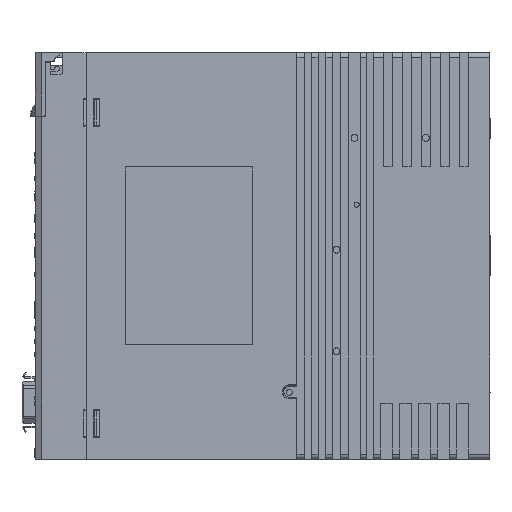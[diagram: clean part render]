
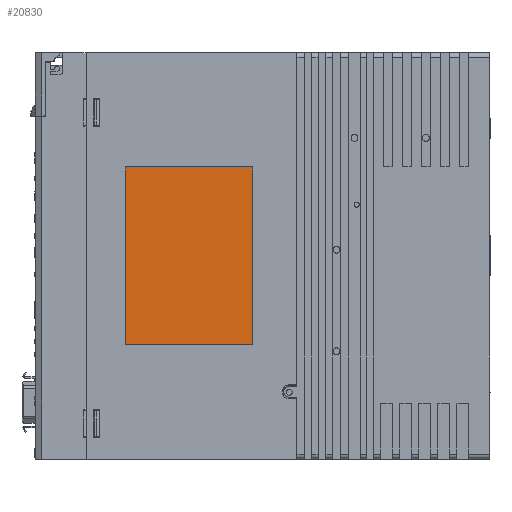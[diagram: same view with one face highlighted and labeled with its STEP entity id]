
A CAD part, top view. The second image highlights one B-rep face of the part: STEP entity #20830.
In plain terms, the highlighted planar face has unit normal (0, 0, -1).
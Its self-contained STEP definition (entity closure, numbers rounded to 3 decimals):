
#2624 = VERTEX_POINT ( 'NONE', #124301 ) ;
#9025 = VERTEX_POINT ( 'NONE', #134148 ) ;
#12452 = LINE ( 'NONE', #34376, #36807 ) ;
#14170 = ORIENTED_EDGE ( 'NONE', *, *, #66458, .F. ) ;
#17926 = LINE ( 'NONE', #129585, #124671 ) ;
#20830 = ADVANCED_FACE ( 'NONE', ( #99688 ), #123359, .F. ) ;
#22111 = DIRECTION ( 'NONE',  ( 0., 0., 1. ) ) ;
#23064 = DIRECTION ( 'NONE',  ( 0., -1., 0. ) ) ;
#25171 = DIRECTION ( 'NONE',  ( -1., 0., 0. ) ) ;
#26210 = VERTEX_POINT ( 'NONE', #132470 ) ;
#28229 = ORIENTED_EDGE ( 'NONE', *, *, #97046, .F. ) ;
#28316 = LINE ( 'NONE', #44650, #104254 ) ;
#34376 = CARTESIAN_POINT ( 'NONE',  ( -48.4, -19., 33.8 ) ) ;
#35929 = VERTEX_POINT ( 'NONE', #44705 ) ;
#36807 = VECTOR ( 'NONE', #23064, 1000. ) ;
#44650 = CARTESIAN_POINT ( 'NONE',  ( 1.6, 51., 33.8 ) ) ;
#44705 = CARTESIAN_POINT ( 'NONE',  ( 1.6, -19., 33.8 ) ) ;
#46503 = ORIENTED_EDGE ( 'NONE', *, *, #120299, .F. ) ;
#51410 = ORIENTED_EDGE ( 'NONE', *, *, #121986, .F. ) ;
#52407 = DIRECTION ( 'NONE',  ( 1., 0., 0. ) ) ;
#65226 = LINE ( 'NONE', #110054, #133266 ) ;
#66458 = EDGE_CURVE ( 'NONE', #9025, #2624, #28316, .T. ) ;
#80211 = DIRECTION ( 'NONE',  ( 1., 0., 0. ) ) ;
#84006 = CARTESIAN_POINT ( 'NONE',  ( 1.6, -19., 33.8 ) ) ;
#97046 = EDGE_CURVE ( 'NONE', #2624, #26210, #12452, .T. ) ;
#99688 = FACE_OUTER_BOUND ( 'NONE', #129460, .T. ) ;
#104254 = VECTOR ( 'NONE', #25171, 1000. ) ;
#110054 = CARTESIAN_POINT ( 'NONE',  ( -48.4, -19., 33.8 ) ) ;
#120098 = DIRECTION ( 'NONE',  ( 0., 1., 0. ) ) ;
#120299 = EDGE_CURVE ( 'NONE', #26210, #35929, #65226, .T. ) ;
#121986 = EDGE_CURVE ( 'NONE', #35929, #9025, #17926, .T. ) ;
#123359 = PLANE ( 'NONE',  #124351 ) ;
#124301 = CARTESIAN_POINT ( 'NONE',  ( -48.4, 51., 33.8 ) ) ;
#124351 = AXIS2_PLACEMENT_3D ( 'NONE', #84006, #22111, #52407 ) ;
#124671 = VECTOR ( 'NONE', #120098, 1000. ) ;
#129460 = EDGE_LOOP ( 'NONE', ( #46503, #28229, #14170, #51410 ) ) ;
#129585 = CARTESIAN_POINT ( 'NONE',  ( 1.6, -19., 33.8 ) ) ;
#132470 = CARTESIAN_POINT ( 'NONE',  ( -48.4, -19., 33.8 ) ) ;
#133266 = VECTOR ( 'NONE', #80211, 1000. ) ;
#134148 = CARTESIAN_POINT ( 'NONE',  ( 1.6, 51., 33.8 ) ) ;
